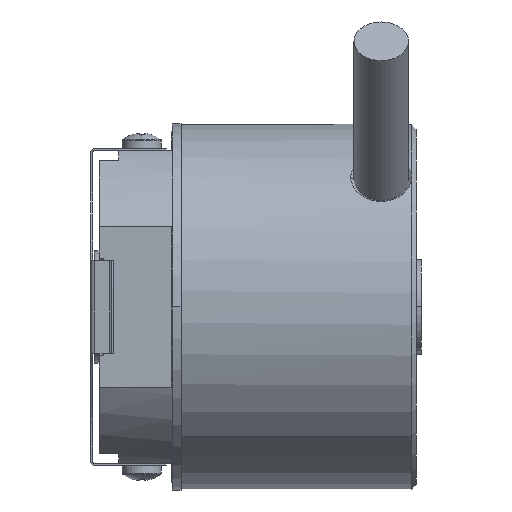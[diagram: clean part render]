
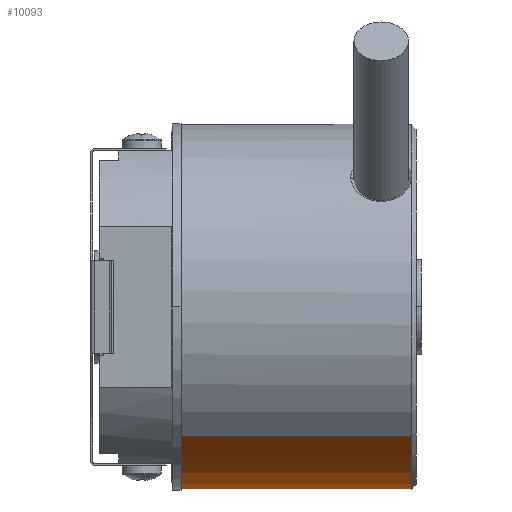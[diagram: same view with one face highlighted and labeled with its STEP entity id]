
A CAD part, front view. The second image highlights one B-rep face of the part: STEP entity #10093.
In plain terms, the highlighted cylindrical face has radius 18.75 mm (diameter 37.5 mm), a partial arc.
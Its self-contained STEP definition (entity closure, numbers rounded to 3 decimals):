
#1370 = DIRECTION ( 'NONE',  ( 1., 0., 0. ) ) ;
#2510 = VERTEX_POINT ( 'NONE', #3428 ) ;
#3428 = CARTESIAN_POINT ( 'NONE',  ( 23.6, 18.75, 0. ) ) ;
#3615 = ORIENTED_EDGE ( 'NONE', *, *, #11814, .T. ) ;
#4256 = DIRECTION ( 'NONE',  ( 1., 0., 0. ) ) ;
#4757 = CARTESIAN_POINT ( 'NONE',  ( 0., -18.75, 0. ) ) ;
#5117 = DIRECTION ( 'NONE',  ( 1., 0., 0. ) ) ;
#8032 = EDGE_CURVE ( 'NONE', #25385, #22878, #14619, .T. ) ;
#8191 = ORIENTED_EDGE ( 'NONE', *, *, #12579, .F. ) ;
#8475 = CYLINDRICAL_SURFACE ( 'NONE', #26396, 18.75 ) ;
#8824 = EDGE_CURVE ( 'NONE', #15189, #2510, #18112, .T. ) ;
#10093 = ADVANCED_FACE ( 'NONE', ( #14541 ), #8475, .T. ) ;
#10657 = DIRECTION ( 'NONE',  ( 1., 0., 0. ) ) ;
#11769 = AXIS2_PLACEMENT_3D ( 'NONE', #13644, #1370, #15702 ) ;
#11814 = EDGE_CURVE ( 'NONE', #25385, #15189, #12125, .T. ) ;
#12125 = CIRCLE ( 'NONE', #20159, 18.75 ) ;
#12579 = EDGE_CURVE ( 'NONE', #22878, #2510, #20097, .T. ) ;
#12966 = CARTESIAN_POINT ( 'NONE',  ( 0., 18.75, 0. ) ) ;
#13276 = DIRECTION ( 'NONE',  ( 0., 1., 0. ) ) ;
#13644 = CARTESIAN_POINT ( 'NONE',  ( 23.6, 0., 0. ) ) ;
#14541 = FACE_OUTER_BOUND ( 'NONE', #22040, .T. ) ;
#14619 = LINE ( 'NONE', #23929, #25457 ) ;
#15189 = VERTEX_POINT ( 'NONE', #12966 ) ;
#15702 = DIRECTION ( 'NONE',  ( 0., 1., 0. ) ) ;
#15851 = ORIENTED_EDGE ( 'NONE', *, *, #8824, .T. ) ;
#16506 = CARTESIAN_POINT ( 'NONE',  ( 24.1, 18.75, 0. ) ) ;
#16881 = CARTESIAN_POINT ( 'NONE',  ( 23.6, -18.75, 0. ) ) ;
#17469 = VECTOR ( 'NONE', #4256, 1000. ) ;
#18112 = LINE ( 'NONE', #16506, #17469 ) ;
#18493 = ORIENTED_EDGE ( 'NONE', *, *, #8032, .F. ) ;
#19431 = CARTESIAN_POINT ( 'NONE',  ( 24.1, 0., 0. ) ) ;
#20097 = CIRCLE ( 'NONE', #11769, 18.75 ) ;
#20159 = AXIS2_PLACEMENT_3D ( 'NONE', #22862, #10657, #24922 ) ;
#22040 = EDGE_LOOP ( 'NONE', ( #18493, #3615, #15851, #8191 ) ) ;
#22862 = CARTESIAN_POINT ( 'NONE',  ( 0., 0., 0. ) ) ;
#22878 = VERTEX_POINT ( 'NONE', #16881 ) ;
#23929 = CARTESIAN_POINT ( 'NONE',  ( 24.1, -18.75, 0. ) ) ;
#24922 = DIRECTION ( 'NONE',  ( 0., 1., 0. ) ) ;
#25385 = VERTEX_POINT ( 'NONE', #4757 ) ;
#25457 = VECTOR ( 'NONE', #25970, 1000. ) ;
#25970 = DIRECTION ( 'NONE',  ( 1., 0., 0. ) ) ;
#26396 = AXIS2_PLACEMENT_3D ( 'NONE', #19431, #5117, #13276 ) ;
